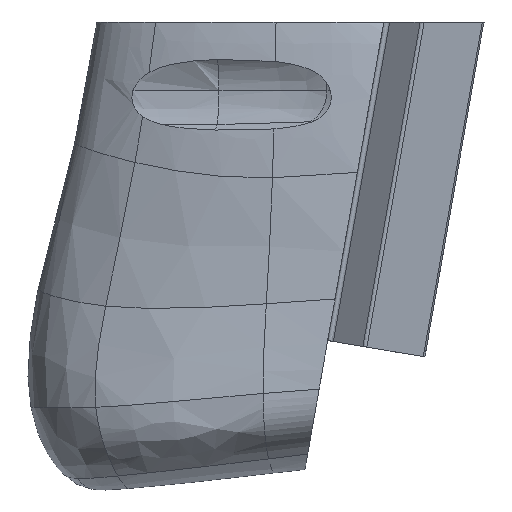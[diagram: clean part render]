
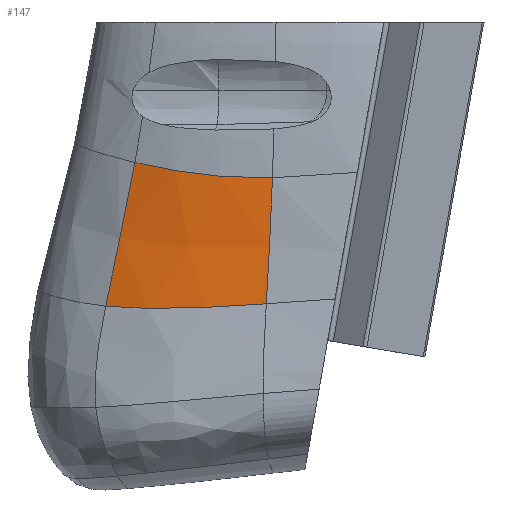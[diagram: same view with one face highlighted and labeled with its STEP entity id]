
A CAD part, front view. The second image highlights one B-rep face of the part: STEP entity #147.
In plain terms, the highlighted free-form (B-spline) face has degree [3, 3] with [5, 5] control points.
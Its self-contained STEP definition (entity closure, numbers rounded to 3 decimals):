
#147=ADVANCED_FACE('',(#218),#1196,.T.);
#218=FACE_OUTER_BOUND('',#289,.T.);
#289=EDGE_LOOP('',(#369,#370,#371,#372));
#369=ORIENTED_EDGE('',*,*,#721,.T.);
#370=ORIENTED_EDGE('',*,*,#732,.T.);
#371=ORIENTED_EDGE('',*,*,#733,.F.);
#372=ORIENTED_EDGE('',*,*,#714,.F.);
#714=EDGE_CURVE('',#1070,#1077,#933,.T.);
#721=EDGE_CURVE('',#1070,#1075,#940,.T.);
#732=EDGE_CURVE('',#1075,#1081,#951,.T.);
#733=EDGE_CURVE('',#1077,#1081,#952,.T.);
#933=B_SPLINE_CURVE_WITH_KNOTS('',3,(#5389,#5390,#5391,#5392,#5393),
 .UNSPECIFIED.,.F.,.F.,(4,1,4),(0.,1.,2.),.UNSPECIFIED.);
#940=B_SPLINE_CURVE_WITH_KNOTS('',3,(#5434,#5435,#5436,#5437,#5438),
 .UNSPECIFIED.,.F.,.F.,(4,1,4),(0.,1.,2.),.UNSPECIFIED.);
#951=B_SPLINE_CURVE_WITH_KNOTS('',3,(#5496,#5497,#5498,#5499,#5500),
 .UNSPECIFIED.,.F.,.F.,(4,1,4),(0.,1.,2.),.UNSPECIFIED.);
#952=B_SPLINE_CURVE_WITH_KNOTS('',3,(#5501,#5502,#5503,#5504,#5505),
 .UNSPECIFIED.,.F.,.F.,(4,1,4),(0.,1.,2.),.UNSPECIFIED.);
#1070=VERTEX_POINT('',#5225);
#1075=VERTEX_POINT('',#5230);
#1077=VERTEX_POINT('',#5232);
#1081=VERTEX_POINT('',#5236);
#1196=B_SPLINE_SURFACE_WITH_KNOTS('',3,3,((#1494,#1495,#1496,#1497,#1498),
(#1499,#1500,#1501,#1502,#1503),(#1504,#1505,#1506,#1507,#1508),(#1509,
#1510,#1511,#1512,#1513),(#1514,#1515,#1516,#1517,#1518)),.UNSPECIFIED.,
 .F.,.F.,.F.,(4,1,4),(4,1,4),(0.,1.,2.),(0.,1.,2.),.UNSPECIFIED.);
#1494=CARTESIAN_POINT('',(-60.543,-13.339,48.949));
#1495=CARTESIAN_POINT('',(-59.725,-12.537,53.048));
#1496=CARTESIAN_POINT('',(-57.725,-11.538,62.256));
#1497=CARTESIAN_POINT('',(-55.635,-11.044,72.407));
#1498=CARTESIAN_POINT('',(-54.727,-10.749,77.45));
#1499=CARTESIAN_POINT('',(-56.293,-15.48,48.511));
#1500=CARTESIAN_POINT('',(-55.551,-14.597,52.486));
#1501=CARTESIAN_POINT('',(-53.76,-13.486,61.439));
#1502=CARTESIAN_POINT('',(-51.894,-12.905,71.496));
#1503=CARTESIAN_POINT('',(-51.077,-12.551,76.574));
#1504=CARTESIAN_POINT('',(-46.191,-18.859,48.328));
#1505=CARTESIAN_POINT('',(-45.682,-17.911,52.009));
#1506=CARTESIAN_POINT('',(-44.485,-16.721,60.224));
#1507=CARTESIAN_POINT('',(-43.241,-16.026,69.828));
#1508=CARTESIAN_POINT('',(-42.687,-15.573,74.896));
#1509=CARTESIAN_POINT('',(-34.514,-21.166,49.002));
#1510=CARTESIAN_POINT('',(-34.239,-20.215,52.483));
#1511=CARTESIAN_POINT('',(-33.613,-18.96,60.124));
#1512=CARTESIAN_POINT('',(-32.985,-18.111,69.266));
#1513=CARTESIAN_POINT('',(-32.71,-17.567,74.249));
#1514=CARTESIAN_POINT('',(-28.689,-22.235,49.419));
#1515=CARTESIAN_POINT('',(-28.492,-21.265,52.872));
#1516=CARTESIAN_POINT('',(-28.052,-19.911,60.421));
#1517=CARTESIAN_POINT('',(-27.641,-18.934,69.461));
#1518=CARTESIAN_POINT('',(-27.472,-18.341,74.404));
#5225=CARTESIAN_POINT('',(-60.543,-13.339,48.949));
#5230=CARTESIAN_POINT('',(-28.689,-22.235,49.419));
#5232=CARTESIAN_POINT('',(-54.727,-10.749,77.45));
#5236=CARTESIAN_POINT('',(-27.472,-18.341,74.404));
#5389=CARTESIAN_POINT('',(-60.543,-13.339,48.949));
#5390=CARTESIAN_POINT('',(-59.725,-12.537,53.048));
#5391=CARTESIAN_POINT('',(-57.725,-11.538,62.256));
#5392=CARTESIAN_POINT('',(-55.635,-11.044,72.407));
#5393=CARTESIAN_POINT('',(-54.727,-10.749,77.45));
#5434=CARTESIAN_POINT('',(-60.543,-13.339,48.949));
#5435=CARTESIAN_POINT('',(-56.293,-15.48,48.511));
#5436=CARTESIAN_POINT('',(-46.191,-18.859,48.328));
#5437=CARTESIAN_POINT('',(-34.514,-21.166,49.002));
#5438=CARTESIAN_POINT('',(-28.689,-22.235,49.419));
#5496=CARTESIAN_POINT('',(-28.689,-22.235,49.419));
#5497=CARTESIAN_POINT('',(-28.492,-21.265,52.872));
#5498=CARTESIAN_POINT('',(-28.052,-19.911,60.421));
#5499=CARTESIAN_POINT('',(-27.641,-18.934,69.461));
#5500=CARTESIAN_POINT('',(-27.472,-18.341,74.404));
#5501=CARTESIAN_POINT('',(-54.727,-10.749,77.45));
#5502=CARTESIAN_POINT('',(-51.077,-12.551,76.574));
#5503=CARTESIAN_POINT('',(-42.687,-15.573,74.896));
#5504=CARTESIAN_POINT('',(-32.71,-17.567,74.249));
#5505=CARTESIAN_POINT('',(-27.472,-18.341,74.404));
